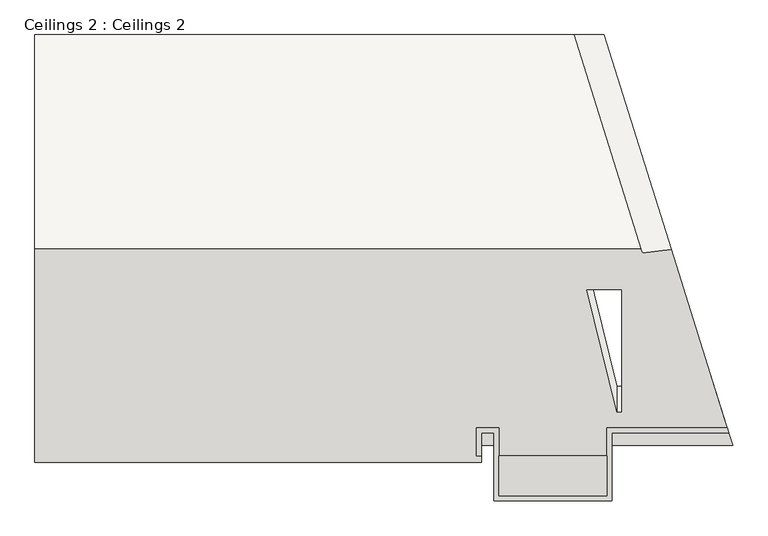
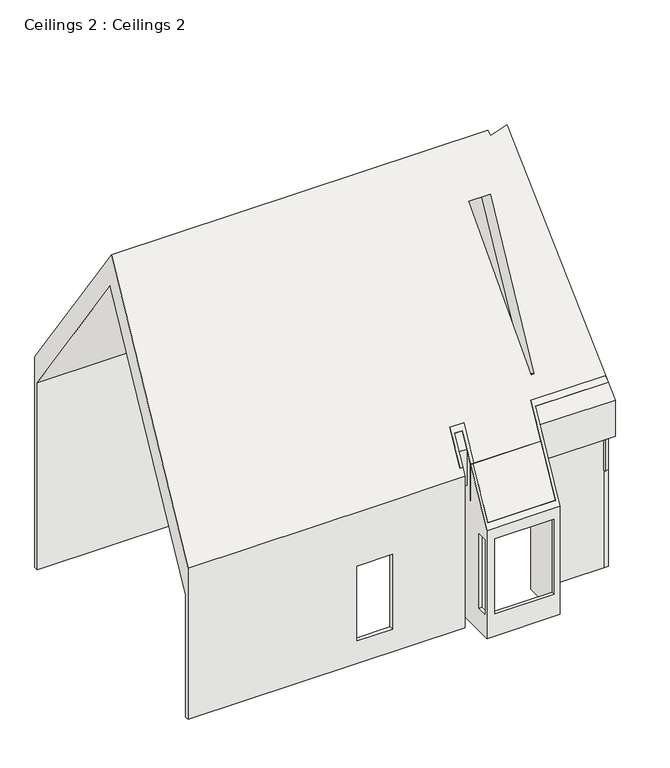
"""IFC4 building model written with IfcOpenShell, lengths in millimetres: covering geometry, Ceilings 2 : Ceilings 2."""

from ifc_helpers import new_model, si_unit, frame, origin, place, context, project, spatial, polyline, outline, extrude, faceted_brep, source, transform, mapped, element, save


def ceilings_2_ceilings_2_b1cccb20(model_context):
    return source(origin(), model_context, "Body", "SolidModel", [
        extrude(outline(polyline([(-4396.5469215, 2600.0), (-4677.6528425, 2600.0), (-4677.6528425, 3031.9999127), (-4044.9753259, 4233.6019075), (-4044.9753259, 3267.7163634), (-4396.5469215, 2600.0)])), frame((-288.0204162, 0.0, 0.0), z_axis=(1.0, 0.0, 0.0), x_axis=(0.0, 1.0, 0.0)), (0.0, 0.0, 1.0), 1703.6788875),
        faceted_brep([(-563.0204162, -3684.9753259, 0.0), (-563.0204162, -4044.9753259, 0.0), (-638.0204162, -4044.9753259, 0.0), (-638.0204162, -3609.9753259, 0.0), (-288.0204162, -3609.9753259, 0.0), (-288.0204162, -4677.6528425, 0.0), (1415.6584713, -4677.6528425, 0.0), (1415.6584713, -3606.9389803, 0.0), (3304.8461627, -3606.9389803, 0.0), (3328.383086, -3681.9389803, 0.0), (3217.7527849, -3681.9389803, 0.0), (1490.6584713, -3681.9389803, 0.0), (1490.6584713, -4752.6528425, 0.0), (-363.0204162, -4752.6528425, 0.0), (-363.0204162, -3684.9753259, 0.0), (-363.0204162, -3684.9753259, 4917.3257742), (-563.0204162, -3684.9753259, 4917.3257742), (-363.0204162, -4752.6528425, 2889.5574405), (-363.0204162, -4404.9753259, 600.0), (-363.0204162, -4404.9753259, 2600.0), (-363.0204162, -4664.9753259, 2600.0), (-363.0204162, -4664.9753259, 600.0), (1490.6584713, -4752.6528425, 2889.5574405), (-163.0204162, -4752.6528425, 600.0), (-163.0204162, -4752.6528425, 2600.0), (1336.9795838, -4752.6528425, 2600.0), (1336.9795838, -4752.6528425, 600.0), (1490.6584713, -3681.9389803, 4923.0925017), (3217.7527849, -3681.9389803, 4923.0925017), (3328.383086, -3681.9389803, 4923.0925017), (3304.8461627, -3606.9389803, 5065.5349739), (1415.6584713, -3606.9389803, 5065.5349739), (1415.6584713, -4677.6528425, 3031.9999127), (-288.0204162, -4677.6528425, 3031.9999127), (-163.0204162, -4677.6528425, 2600.0), (-163.0204162, -4677.6528425, 600.0), (1336.9795838, -4677.6528425, 600.0), (1336.9795838, -4677.6528425, 2600.0), (-288.0204162, -3609.9753259, 5059.7682464), (-288.0204162, -4404.9753259, 2600.0), (-288.0204162, -4404.9753259, 600.0), (-288.0204162, -4664.9753259, 600.0), (-288.0204162, -4664.9753259, 2600.0), (-638.0204162, -3609.9753259, 5059.7682464), (-638.0204162, -4044.9753259, 4233.6019075), (-563.0204162, -4044.9753259, 4233.6019075)], [[[0, 1, 2, 3, 4, 5, 6, 7, 8, 9, 10, 11, 12, 13, 14]], [[0, 14, 15, 16]], [[14, 13, 17, 15], [18, 19, 20, 21]], [[13, 12, 22, 17], [23, 24, 25, 26]], [[12, 11, 27, 22]], [[11, 10, 28, 27]], [[10, 9, 29, 28]], [[9, 8, 30, 29]], [[8, 7, 31, 30]], [[7, 6, 32, 31]], [[6, 5, 33, 32], [34, 35, 36, 37]], [[5, 4, 38, 33], [39, 40, 41, 42]], [[4, 3, 43, 38]], [[3, 2, 44, 43]], [[2, 1, 45, 44]], [[1, 0, 16, 45]], [[16, 15, 17, 22, 27, 28, 29, 30, 31, 32, 33, 38, 43, 44, 45]], [[34, 24, 23, 35]], [[35, 23, 26, 36]], [[36, 26, 25, 37]], [[24, 34, 37, 25]], [[39, 19, 18, 40]], [[40, 18, 21, 41]], [[41, 21, 20, 42]], [[19, 39, 42, 20]]]),
        extrude(outline(polyline([(7437.0209928, 0.0), (7437.0209928, -1341.503682), (4345.017338, -6944.5068623), (983.807871, -2396.7524462), (983.807871, 0.0), (7437.0209928, 0.0)])), frame((1003.4208929, 3373.9913771, 2600.0), z_axis=(0.9541191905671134, 0.2994270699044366, 0.0), x_axis=(0.2994270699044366, -0.9541191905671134, 0.0)), (0.0, 0.0, 1.0), 105.5544934),
        faceted_brep([(-7582.9571443, -795.8484949, 10404.4506862), (-7582.9571443, 2575.0246741, 5624.3041811), (-7582.9571443, 2575.0246741, 0.0), (-7582.9571443, 2466.9272803, 0.0), (-7582.9571443, 2466.9272803, 4996.7524462), (-7582.9571443, -740.0671758, 9544.5068623), (-7582.9571443, -4044.9753259, 3267.7163634), (-7582.9571443, -4044.9753259, 0.0), (-7582.9571443, -4144.9753259, 0.0), (-7582.9571443, -4144.9753259, 4043.6786111), (1951.0146917, -795.8484949, 10404.4506862), (893.1482469, 2575.0246741, 5624.3041811), (893.1482469, 2575.0246741, 5414.0472991), (1364.7874346, 2575.0246741, 5605.0047058), (1364.7874346, 2575.0246741, 0.0), (1398.7111689, 2466.9272803, 0.0), (1398.7111689, 2466.9272803, 4996.7524462), (2405.1482709, -740.0671758, 9544.5068623), (3391.1482149, -3881.9389803, 3577.360365), (1490.6584713, -3881.9389803, 3577.360365), (1490.6584713, -4044.9753259, 3267.7163634), (-363.0204162, -4044.9753259, 3267.7163634), (-363.0204162, -3881.9389803, 3577.360365), (-563.0204162, -3881.9389803, 3577.360365), (-563.0204162, -4044.9753259, 3267.7163634), (1573.761163, -2957.1345777, 5333.779371), (1637.8252801, -2957.1345777, 5333.779371), (1637.8252801, -1039.0901102, 8976.5926484), (1095.5389666, -1039.0901102, 8976.5926484), (-563.0204162, -4044.9753259, 0.0), (-3302.9571443, -4044.9753259, 2600.0), (-3302.9571443, -4044.9753259, 600.0), (-2402.9571443, -4044.9753259, 600.0), (-2402.9571443, -4044.9753259, 2600.0), (-563.0204162, -4144.9753259, 0.0), (-563.0204162, -4144.9753259, 4043.6786111), (-2798.6959494, -4144.9753259, 4043.6786111), (-3302.9571443, -4144.9753259, 600.0), (-3302.9571443, -4144.9753259, 2600.0), (-2402.9571443, -4144.9753259, 2600.0), (-2402.9571443, -4144.9753259, 600.0), (-563.0204162, -3881.9389803, 4543.2459091), (-363.0204162, -3881.9389803, 4543.2459091), (-363.0204162, -4044.9753259, 4233.6019075), (1490.6584713, -4044.9753259, 4233.6019075), (1490.6584713, -3881.9389803, 4543.2459091), (3391.1482149, -3881.9389803, 4543.2459091), (3261.6951366, -3469.4389803, 5326.6795064), (2424.7569555, -802.5499106, 10391.7231367), (1971.1875513, -860.1289639, 10282.3671007), (1637.8252801, -3355.3128892, 5543.4315407), (1573.761163, -3355.3128892, 5543.4315407), (1095.5389666, -1437.2684217, 9186.2448181), (1637.8252801, -1437.2684217, 9186.2448181)], [[[0, 1, 2, 3, 4, 5, 6, 7, 8, 9]], [[1, 0, 10, 11]], [[2, 1, 11, 12, 13, 14]], [[3, 2, 14, 15]], [[4, 3, 15, 16]], [[5, 4, 16, 17]], [[6, 5, 17, 18, 19, 20, 21, 22, 23, 24], [25, 26, 27, 28]], [[7, 6, 24, 29], [30, 31, 32, 33]], [[8, 7, 29, 34]], [[9, 8, 34, 35, 36], [37, 38, 39, 40]], [[0, 9, 36, 35, 41, 42, 43, 44, 45, 46, 47, 48, 49, 10], [50, 51, 52, 53]], [[46, 18, 17, 16, 15, 14, 13, 48, 47]], [[18, 46, 45, 19]], [[23, 41, 35, 34, 29, 24]], [[49, 12, 11, 10]], [[12, 49, 48, 13]], [[19, 45, 44, 20]], [[41, 23, 22, 42]], [[42, 22, 21, 43]], [[43, 21, 20, 44]], [[51, 25, 28, 52]], [[25, 51, 50, 26]], [[26, 50, 53, 27]], [[52, 28, 27, 53]], [[30, 38, 37, 31]], [[31, 37, 40, 32]], [[32, 40, 39, 33]], [[38, 30, 33, 39]]]),
    ])


if __name__ == "__main__":
    model = new_model("IFC4")
    model_context = context("Model", 3, world=origin())
    ifc_project = project(units=[si_unit("LENGTHUNIT", "METRE", prefix="MILLI")], contexts=[model_context])
    site = spatial("IfcSite", under=ifc_project)
    building = spatial("IfcBuilding", under=site)
    placement = place(None, origin())
    ceilings_2_ceilings_2_shape = ceilings_2_ceilings_2_b1cccb20(model_context)
    element("IfcCovering", 1, ObjectType="Ceilings 2 : Ceilings 2", at=placement, inside=building, context=model_context, shape_type="MappedRepresentation", body=[
        mapped(ceilings_2_ceilings_2_shape, transform((0.0, 0.0, 0.0), x_axis=(1.0, 0.0, 0.0), y_axis=(0.0, 1.0, 0.0), z_axis=(0.0, 0.0, 1.0))),
    ])
    save(model, "model.ifc")
